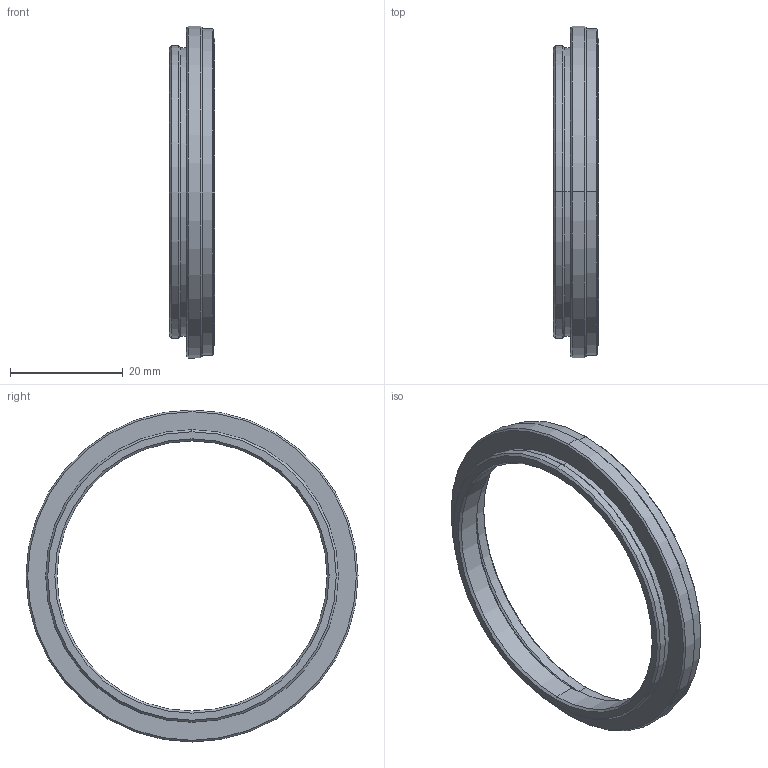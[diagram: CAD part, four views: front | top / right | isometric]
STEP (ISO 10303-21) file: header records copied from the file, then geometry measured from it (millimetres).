
FILE_DESCRIPTION (( 'STEP AP203' ), '1' );
FILE_NAME ('VS-EXR5_M52.STEP', '2017-02-08T08:15:08', ( '' ), ( '' ), 'SwSTEP 2.0', 'SolidWorks 2017', '' );
FILE_SCHEMA (( 'CONFIG_CONTROL_DESIGN' ));
Length unit declared in the file: millimetre
Products named in the file (1): VS-EXR5_M52
Bounding box: 8 x 59 x 59 mm (x, y, z)
Volume: 4210.2 mm3; surface area: 4426.8 mm2
Topology: 1 solids, 1 shells, 40 faces, 80 edges, 46 vertices
Faces by surface type: cone 20, cylinder 14, plane 6
Entity records: 1115 total; most frequent: DIRECTION 208, CARTESIAN_POINT 167, ORIENTED_EDGE 160, AXIS2_PLACEMENT_3D 87, EDGE_CURVE 80, VERTEX_POINT 46, EDGE_LOOP 46, CIRCLE 46
